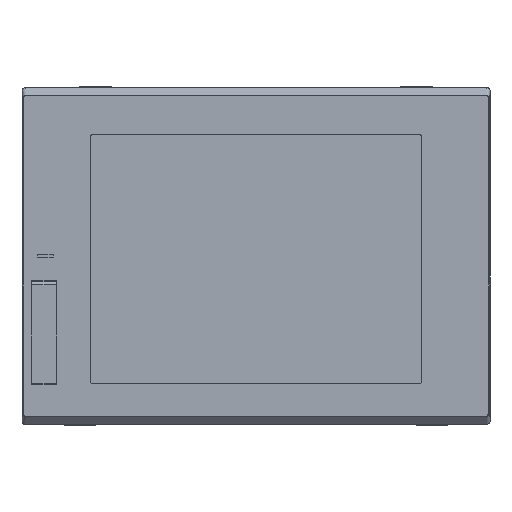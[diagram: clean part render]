
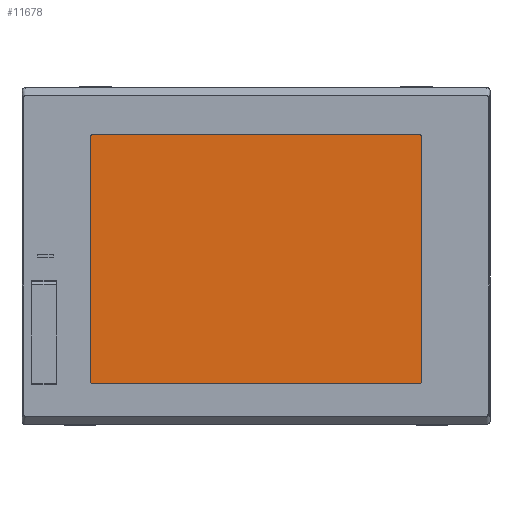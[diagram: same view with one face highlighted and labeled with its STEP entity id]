
A CAD part, top view. The second image highlights one B-rep face of the part: STEP entity #11678.
In plain terms, the highlighted planar face has unit normal (0, 0, 1).
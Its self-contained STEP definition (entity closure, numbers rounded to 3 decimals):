
#2037=CARTESIAN_POINT('',(106.2,77.4,-0.1));
#2038=DIRECTION('',(0.,0.,1.));
#2039=DIRECTION('',(1.,0.,0.));
#2040=AXIS2_PLACEMENT_3D('',#2037,#2038,#2039);
#2042=DIRECTION('',(0.,1.,0.));
#2043=VECTOR('',#2042,158.8);
#2044=CARTESIAN_POINT('',(107.2,-81.4,-0.1));
#2045=LINE('',#2044,#2043);
#2046=CARTESIAN_POINT('',(106.2,-81.4,-0.1));
#2047=DIRECTION('',(0.,0.,1.));
#2048=DIRECTION('',(0.,-1.,0.));
#2049=AXIS2_PLACEMENT_3D('',#2046,#2047,#2048);
#2051=CARTESIAN_POINT('',(-106.2,-81.4,-0.1));
#2052=DIRECTION('',(0.,0.,1.));
#2053=DIRECTION('',(-1.,0.,0.));
#2054=AXIS2_PLACEMENT_3D('',#2051,#2052,#2053);
#2056=CARTESIAN_POINT('',(-106.2,77.4,-0.1));
#2057=DIRECTION('',(0.,0.,1.));
#2058=DIRECTION('',(0.,1.,0.));
#2059=AXIS2_PLACEMENT_3D('',#2056,#2057,#2058);
#2069=DIRECTION('',(-1.,0.,0.));
#2070=VECTOR('',#2069,212.4);
#2071=CARTESIAN_POINT('',(106.2,78.4,-0.1));
#2072=LINE('',#2071,#2070);
#2085=DIRECTION('',(0.,-1.,0.));
#2086=VECTOR('',#2085,158.8);
#2087=CARTESIAN_POINT('',(-107.2,77.4,-0.1));
#2088=LINE('',#2087,#2086);
#2101=DIRECTION('',(1.,0.,0.));
#2102=VECTOR('',#2101,212.4);
#2103=CARTESIAN_POINT('',(-106.2,-82.4,-0.1));
#2104=LINE('',#2103,#2102);
#7299=CARTESIAN_POINT('',(107.2,-81.4,-0.1));
#7300=CARTESIAN_POINT('',(107.2,77.4,-0.1));
#7301=VERTEX_POINT('',#7299);
#7302=VERTEX_POINT('',#7300);
#7303=CARTESIAN_POINT('',(106.2,78.4,-0.1));
#7304=VERTEX_POINT('',#7303);
#7305=CARTESIAN_POINT('',(106.2,-82.4,-0.1));
#7306=VERTEX_POINT('',#7305);
#7307=CARTESIAN_POINT('',(-106.2,-82.4,-0.1));
#7308=VERTEX_POINT('',#7307);
#7309=CARTESIAN_POINT('',(-107.2,-81.4,-0.1));
#7310=VERTEX_POINT('',#7309);
#7311=CARTESIAN_POINT('',(-107.2,77.4,-0.1));
#7312=VERTEX_POINT('',#7311);
#7313=CARTESIAN_POINT('',(-106.2,78.4,-0.1));
#7314=VERTEX_POINT('',#7313);
#11656=CARTESIAN_POINT('',(0.,-2.,-0.1));
#11657=DIRECTION('',(0.,0.,1.));
#11658=DIRECTION('',(1.,0.,0.));
#11659=AXIS2_PLACEMENT_3D('',#11656,#11657,#11658);
#11660=PLANE('',#11659);
#11662=ORIENTED_EDGE('',*,*,#11661,.F.);
#11663=ORIENTED_EDGE('',*,*,#11646,.F.);
#11665=ORIENTED_EDGE('',*,*,#11664,.F.);
#11667=ORIENTED_EDGE('',*,*,#11666,.F.);
#11669=ORIENTED_EDGE('',*,*,#11668,.F.);
#11671=ORIENTED_EDGE('',*,*,#11670,.F.);
#11673=ORIENTED_EDGE('',*,*,#11672,.F.);
#11675=ORIENTED_EDGE('',*,*,#11674,.F.);
#11676=EDGE_LOOP('',(#11662,#11663,#11665,#11667,#11669,#11671,#11673,#11675));
#11677=FACE_OUTER_BOUND('',#11676,.F.);
#11678=ADVANCED_FACE('',(#11677),#11660,.T.);
#2041=CIRCLE('',#2040,1.);
#2050=CIRCLE('',#2049,1.);
#2055=CIRCLE('',#2054,1.);
#2060=CIRCLE('',#2059,1.);
#11646=EDGE_CURVE('',#7301,#7302,#2045,.T.);
#11661=EDGE_CURVE('',#7302,#7304,#2041,.T.);
#11664=EDGE_CURVE('',#7306,#7301,#2050,.T.);
#11666=EDGE_CURVE('',#7308,#7306,#2104,.T.);
#11668=EDGE_CURVE('',#7310,#7308,#2055,.T.);
#11670=EDGE_CURVE('',#7312,#7310,#2088,.T.);
#11672=EDGE_CURVE('',#7314,#7312,#2060,.T.);
#11674=EDGE_CURVE('',#7304,#7314,#2072,.T.);
